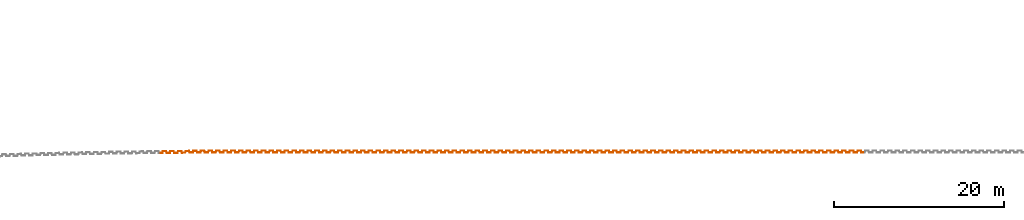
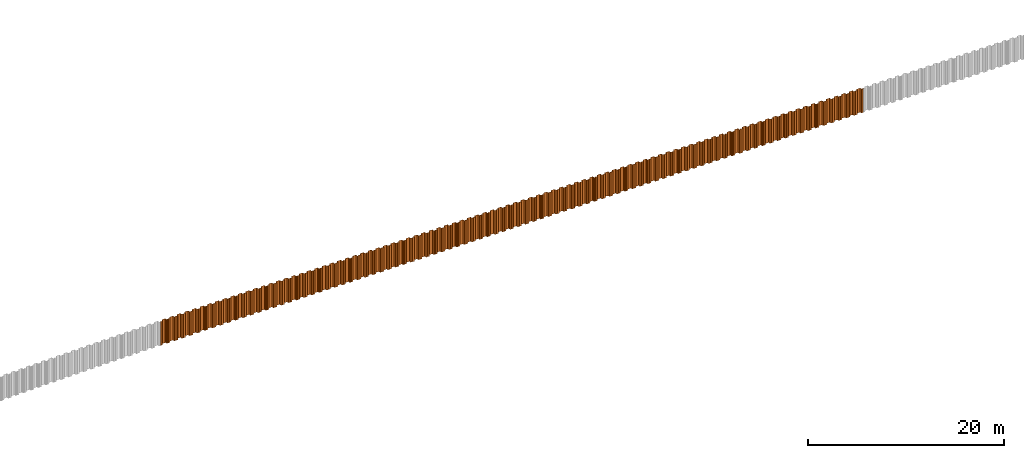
# One storey, part 7 of 12: 92 proxies.
"""IFC2X3 building model written with IfcOpenShell, lengths in millimetres."""

from ifc_helpers import new_model, entity, si_unit, converted_unit, derived_unit, direction, frame, frame_2d, origin, place, context, subcontext, project, spatial, polyline, circle_curve, parameter, trimmed, segment, composite_curve, outline, extrude, source, transform, mapped, material, type_object, type_shapes, element, save


model = new_model("IFC2X3")

# Units and contexts
model_context = context("Model", 3, precision=0.01, world=origin(), true_north=direction((6.12303176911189e-17, 1.0)))
body_context = subcontext(model_context, "Body", "Model", "MODEL_VIEW")
ifc_project = project(units=[si_unit("LENGTHUNIT", "METRE", prefix="MILLI"), si_unit("AREAUNIT", "SQUARE_METRE"), si_unit("VOLUMEUNIT", "CUBIC_METRE"), converted_unit("PLANEANGLEUNIT", "DEGREE", entity("IfcRatioMeasure", 0.0174532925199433), si_unit("PLANEANGLEUNIT", "RADIAN"), dimensions=[0, 0, 0, 0, 0, 0, 0]), si_unit("MASSUNIT", "GRAM", prefix="KILO"), derived_unit("MASSDENSITYUNIT", [(si_unit("MASSUNIT", "GRAM", prefix="KILO"), 1), (si_unit("LENGTHUNIT", "METRE"), -3)]), derived_unit("MOMENTOFINERTIAUNIT", [(si_unit("LENGTHUNIT", "METRE"), 4)]), si_unit("TIMEUNIT", "SECOND"), si_unit("FREQUENCYUNIT", "HERTZ"), si_unit("THERMODYNAMICTEMPERATUREUNIT", "DEGREE_CELSIUS"), derived_unit("THERMALTRANSMITTANCEUNIT", [(si_unit("MASSUNIT", "GRAM", prefix="KILO"), 1), (si_unit("THERMODYNAMICTEMPERATUREUNIT", "KELVIN"), -1), (si_unit("TIMEUNIT", "SECOND"), -3)]), derived_unit("VOLUMETRICFLOWRATEUNIT", [(si_unit("LENGTHUNIT", "METRE"), 3), (si_unit("TIMEUNIT", "SECOND"), -1)]), si_unit("ELECTRICCURRENTUNIT", "AMPERE"), si_unit("ELECTRICVOLTAGEUNIT", "VOLT"), si_unit("POWERUNIT", "WATT"), si_unit("FORCEUNIT", "NEWTON", prefix="KILO"), si_unit("ILLUMINANCEUNIT", "LUX"), si_unit("LUMINOUSFLUXUNIT", "LUMEN"), si_unit("LUMINOUSINTENSITYUNIT", "CANDELA"), derived_unit("USERDEFINED", [(si_unit("MASSUNIT", "GRAM", prefix="KILO"), -1), (si_unit("LENGTHUNIT", "METRE"), -2), (si_unit("TIMEUNIT", "SECOND"), 3), (si_unit("LUMINOUSFLUXUNIT", "LUMEN"), 1)]), derived_unit("LINEARVELOCITYUNIT", [(si_unit("LENGTHUNIT", "METRE"), 1), (si_unit("TIMEUNIT", "SECOND"), -1)]), si_unit("PRESSUREUNIT", "PASCAL"), derived_unit("USERDEFINED", [(si_unit("LENGTHUNIT", "METRE"), -2), (si_unit("MASSUNIT", "GRAM", prefix="KILO"), 1), (si_unit("TIMEUNIT", "SECOND"), -2)]), derived_unit("LINEARFORCEUNIT", [(si_unit("MASSUNIT", "GRAM", prefix="KILO"), 1), (si_unit("LENGTHUNIT", "METRE"), 1), (si_unit("TIMEUNIT", "SECOND"), -2), (si_unit("LENGTHUNIT", "METRE"), -1)]), derived_unit("PLANARFORCEUNIT", [(si_unit("MASSUNIT", "GRAM", prefix="KILO"), 1), (si_unit("LENGTHUNIT", "METRE"), 1), (si_unit("TIMEUNIT", "SECOND"), -2), (si_unit("LENGTHUNIT", "METRE"), -2)])], contexts=[model_context])

# Site, building, storey
site_placement = place(None, origin())
site = spatial("IfcSite", under=ifc_project, at=site_placement, Name="Default", CompositionType="ELEMENT")
building_placement = place(site_placement, origin())
building = spatial("IfcBuilding", under=site, at=building_placement, CompositionType="ELEMENT")
storey_placement = place(building_placement, frame((0.0, 0.0, 10600.0)))
storey = spatial("IfcBuildingStorey", under=building, at=storey_placement, Name="AP+10.600", CompositionType="ELEMENT", Elevation=10600.0)

# Proxies
ifc_material = material(Name="<Unnamed>")
building_element_proxy_type = type_object("IfcBuildingElementProxyType", Name="鋼矢板10H型:鋼矢板10H型", PredefinedType="NOTDEFINED", material=ifc_material)
shared_shape = source(origin(), body_context, "Body", "SweptSolid", [
    extrude(outline(composite_curve([segment(trimmed(circle_curve(frame_2d((85.3662976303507, 306.644432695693), x_axis=(0.422618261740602, 0.906307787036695)), 13.885714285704), [parameter(24.9999999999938)], [parameter(90.0000000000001)], True, "PARAMETER"), True, "CONTINUOUS"), segment(polyline([(72.7815666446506, 312.512789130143), (9.8129512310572, 177.476157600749)]), True, "CONTINUOUS"), segment(trimmed(circle_curve(frame_2d((29.3891994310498, 168.347603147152), x_axis=(0.422618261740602, 0.906307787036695)), 21.6), [parameter(90.0000000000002)], [parameter(168.69006752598)], True, "PARAMETER"), True, "CONTINUOUS"), segment(polyline([(16.598697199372, 150.941769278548), (175.329723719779, 34.2998683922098)]), True, "CONTINUOUS"), segment(trimmed(circle_curve(frame_2d((168.93447260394, 25.596951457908), x_axis=(0.422618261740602, 0.906307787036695)), 10.7999999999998), [parameter(270.0)], [parameter(348.690067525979)], True, "PARAMETER"), False, "CONTINUOUS"), segment(polyline([(178.722596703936, 21.0326742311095), (18.2974003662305, -323.000269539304)]), True, "CONTINUOUS"), segment(trimmed(circle_curve(frame_2d((8.50927626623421, -318.435992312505), x_axis=(0.422618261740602, 0.906307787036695)), 10.8), [parameter(191.30993247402)], [parameter(269.999999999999)], True, "PARAMETER"), False, "CONTINUOUS"), segment(polyline([(5.95324328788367, -328.929166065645), (-185.429973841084, -282.310113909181)]), True, "CONTINUOUS"), segment(trimmed(circle_curve(frame_2d((-190.542039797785, -303.296461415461), x_axis=(0.422618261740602, 0.906307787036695)), 21.6000000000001), [parameter(11.3099324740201)], [parameter(90.0000000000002)], True, "PARAMETER"), True, "CONTINUOUS"), segment(polyline([(-210.118287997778, -294.167906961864), (-290.330886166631, -466.184378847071)]), True, "CONTINUOUS"), segment(trimmed(circle_curve(frame_2d((-270.754637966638, -475.312933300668), x_axis=(0.422618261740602, 0.906307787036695)), 21.6), [parameter(90.0000000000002)], [parameter(269.999999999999)], True, "PARAMETER"), True, "CONTINUOUS"), segment(polyline([(-251.178389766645, -484.441487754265), (-249.065298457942, -479.909948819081)]), True, "CONTINUOUS"), segment(polyline([(-249.065298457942, -479.909948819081), (-258.853422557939, -475.345671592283)]), True, "CONTINUOUS"), segment(polyline([(-258.853422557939, -475.345671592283), (-260.966513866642, -479.877210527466)]), True, "CONTINUOUS"), segment(trimmed(circle_curve(frame_2d((-270.754637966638, -475.312933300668), x_axis=(0.422618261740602, 0.906307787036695)), 10.8), [parameter(90.0000000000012)], [parameter(270.0)], True, "PARAMETER"), False, "CONTINUOUS"), segment(polyline([(-280.542762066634, -470.748656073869), (-200.330163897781, -298.732184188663)]), True, "CONTINUOUS"), segment(trimmed(circle_curve(frame_2d((-190.542039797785, -303.296461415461), x_axis=(0.422618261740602, 0.906307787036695)), 10.8), [parameter(11.3099324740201)], [parameter(89.9999999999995)], True, "PARAMETER"), False, "CONTINUOUS"), segment(polyline([(-187.986006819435, -292.803287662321), (3.39721030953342, -339.422339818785)]), True, "CONTINUOUS"), segment(trimmed(circle_curve(frame_2d((8.50927626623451, -318.435992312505), x_axis=(0.422618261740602, 0.906307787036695)), 21.6), [parameter(191.30993247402)], [parameter(270.0)], True, "PARAMETER"), True, "CONTINUOUS"), segment(polyline([(28.0855244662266, -327.564546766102), (188.510720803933, 16.4683970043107)]), True, "CONTINUOUS"), segment(trimmed(circle_curve(frame_2d((168.93447260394, 25.5969514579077), x_axis=(0.422618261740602, 0.906307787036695)), 21.6), [parameter(270.0)], [parameter(348.69006752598)], True, "PARAMETER"), True, "CONTINUOUS"), segment(polyline([(181.724974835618, 43.0027853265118), (22.9939483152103, 159.644686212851)]), True, "CONTINUOUS"), segment(trimmed(circle_curve(frame_2d((29.3891994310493, 168.347603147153), x_axis=(0.422618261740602, 0.906307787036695)), 10.7999999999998), [parameter(89.9999999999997)], [parameter(168.690067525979)], True, "PARAMETER"), False, "CONTINUOUS"), segment(polyline([(19.6010753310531, 172.911880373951), (82.5696907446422, 307.948511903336)]), True, "CONTINUOUS"), segment(trimmed(circle_curve(frame_2d((85.3662976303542, 306.64443269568), x_axis=(0.422618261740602, 0.906307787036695)), 3.08571428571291), [parameter(25.0000000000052)], [parameter(90.0000000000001)], True, "PARAMETER"), False, "CONTINUOUS"), segment(polyline([(85.3662976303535, 309.730146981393), (122.220231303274, 309.730146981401)]), True, "CONTINUOUS"), segment(trimmed(circle_curve(frame_2d((122.220231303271, 323.615861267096), x_axis=(0.422618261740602, 0.906307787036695)), 13.8857142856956), [parameter(205.000000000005)], [parameter(270.0)], True, "PARAMETER"), True, "CONTINUOUS"), segment(polyline([(134.804962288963, 317.747504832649), (141.079261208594, 331.202782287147)]), True, "CONTINUOUS"), segment(trimmed(circle_curve(frame_2d((121.503013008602, 340.331336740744), x_axis=(0.422618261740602, 0.906307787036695)), 21.6), [parameter(270.0)], [parameter(90.0000000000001)], True, "PARAMETER"), True, "CONTINUOUS"), segment(polyline([(101.926764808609, 349.459891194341), (99.8136734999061, 344.928352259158)]), True, "CONTINUOUS"), segment(polyline([(99.8136734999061, 344.928352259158), (109.601797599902, 340.364075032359)]), True, "CONTINUOUS"), segment(polyline([(109.601797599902, 340.364075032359), (111.714888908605, 344.895613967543)]), True, "CONTINUOUS"), segment(trimmed(circle_curve(frame_2d((121.503013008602, 340.331336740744), x_axis=(0.422618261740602, 0.906307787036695)), 10.8), [parameter(270.0)], [parameter(89.9999999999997)], True, "PARAMETER"), False, "CONTINUOUS"), segment(polyline([(131.291137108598, 335.767059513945), (125.01683818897, 322.311782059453)]), True, "CONTINUOUS"), segment(trimmed(circle_curve(frame_2d((122.220231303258, 323.615861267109), x_axis=(0.422618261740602, 0.906307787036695)), 3.08571428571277), [parameter(204.999999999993)], [parameter(270.0)], True, "PARAMETER"), False, "CONTINUOUS"), segment(polyline([(122.220231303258, 320.530146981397), (85.3662976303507, 320.530146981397)]), True, "CONTINUOUS")], self_intersect=False)), frame((95.205667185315, -48.8888888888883, -3000.0), z_axis=(0.0, 0.0, -1.0), x_axis=(0.4226182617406, 0.906307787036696, 0.0)), (0.0, 0.0, -1.0), 3000.0),
])
type_shapes(building_element_proxy_type, [shared_shape])
for number, where in (
    (1, (55932.0, -15450.0, -650.0)),
    (2, (55032.0, -15450.0, -650.0)),
    (3, (54132.0, -15450.0, -650.0)),
    (4, (53232.0, -15450.0, -650.0)),
    (5, (52332.0, -15450.0, -650.0)),
    (6, (51432.0, -15450.0, -650.0)),
    (7, (50532.0, -15450.0, -650.0)),
    (8, (49632.0, -15450.0, -650.0)),
    (9, (48732.0, -15450.0, -650.0)),
    (10, (47832.0, -15450.0, -650.0)),
    (11, (46932.0, -15450.0, -650.0)),
    (12, (46032.0, -15450.0, -650.0)),
    (13, (45132.0, -15450.0, -650.0)),
    (14, (44232.0, -15450.0, -650.0)),
    (15, (43332.0, -15450.0, -650.0)),
    (16, (42432.0, -15450.0, -650.0)),
    (17, (41532.0, -15450.0, -650.0)),
    (18, (40632.0, -15450.0, -650.0)),
    (19, (39732.0, -15450.0, -650.0)),
    (20, (38832.0, -15450.0, -650.0)),
    (21, (37932.0, -15450.0, -650.0)),
    (22, (37032.0, -15450.0, -650.0)),
    (23, (36132.0, -15450.0, -650.0)),
    (24, (35232.0, -15450.0, -650.0)),
    (25, (34332.0, -15450.0, -650.0)),
    (26, (33432.0, -15450.0, -650.0)),
    (27, (32532.0, -15450.0, -650.0)),
    (28, (31632.0, -15450.0, -650.0)),
    (29, (30732.0, -15450.0, -650.0)),
    (30, (29832.0, -15450.0, -650.0)),
    (31, (28932.0, -15450.0, -650.0)),
    (32, (28032.0, -15450.0, -650.0)),
    (33, (27132.0, -15450.0, -650.0)),
    (34, (26232.0, -15450.0, -650.0)),
    (35, (25332.0, -15450.0, -650.0)),
    (36, (24432.0, -15450.0, -650.0)),
    (37, (23532.0, -15450.0, -650.0)),
    (38, (22632.0, -15450.0, -650.0)),
    (39, (21732.0, -15450.0, -650.0)),
    (40, (20832.0, -15450.0, -650.0)),
    (41, (19932.0, -15450.0, -650.0)),
    (42, (19032.0, -15450.0, -650.0)),
    (43, (18132.0, -15450.0, -650.0)),
    (44, (17232.0, -15450.0, -650.0)),
    (45, (16332.0, -15450.0, -650.0)),
    (46, (15432.0, -15450.0, -650.0)),
    (47, (14532.0, -15450.0, -650.0)),
    (48, (13632.0, -15450.0, -650.0)),
    (49, (12732.0, -15450.0, -650.0)),
    (50, (11832.0, -15450.0, -650.0)),
    (51, (10932.0, -15450.0, -650.0)),
    (52, (10032.0, -15450.0, -650.0)),
    (53, (9132.0, -15450.0, -650.0)),
    (54, (8232.0, -15450.0, -650.0)),
    (55, (7332.0, -15450.0, -650.0)),
    (56, (6432.0, -15450.0, -650.0)),
    (57, (5532.0, -15450.0, -650.0)),
    (58, (4632.0, -15450.0, -650.0)),
    (59, (3732.0, -15450.0, -650.0)),
    (60, (2832.0, -15450.0, -650.0)),
    (61, (1932.0, -15450.0, -650.0)),
    (62, (1032.0, -15450.0, -650.0)),
    (63, (132.0, -15450.0, -650.0)),
    (64, (-768.0, -15450.0, -650.0)),
    (65, (-1668.0, -15450.0, -650.0)),
    (66, (-2568.0, -15450.0, -650.0)),
    (67, (-3468.0, -15450.0, -650.0)),
    (68, (-4368.0, -15450.0, -650.0)),
    (69, (-5268.0, -15450.0, -650.0)),
    (70, (-6168.0, -15450.0, -650.0)),
    (71, (-7068.0, -15450.0, -650.0)),
    (72, (-7968.0, -15450.0, -650.0)),
    (73, (-8868.0, -15450.0, -650.0)),
    (74, (-9768.0, -15450.0, -650.0)),
    (75, (-10668.0, -15450.0, -650.0)),
    (76, (-11568.0, -15450.0, -650.0)),
    (77, (-12468.0, -15450.0, -650.0)),
    (78, (-13368.0, -15450.0, -650.0)),
    (79, (-14268.0, -15450.0, -650.0)),
    (80, (-15168.0, -15450.0, -650.0)),
    (81, (-16068.0, -15450.0, -650.0)),
    (82, (-16962.9987152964, -15450.4113564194, -650.0)),
):
    element("IfcBuildingElementProxy", number, at=place(storey_placement, frame(where)), inside=storey, type_object=building_element_proxy_type, material=ifc_material, Name="鋼矢板10H型:鋼矢板10H型", ObjectType="鋼矢板10H型:鋼矢板10H型", context=body_context, shape_type="MappedRepresentation", body=[
        mapped(shared_shape, transform((0.0, 0.0, 0.0), scale=1.0)),
    ])
for number, where, z_axis, x_axis in (
    (83, (-17862.9965470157, -15452.6738089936, -650.0), (0.0, 0.0, 1.0), (0.999997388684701, 0.00228530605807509, 0.0)),
    (84, (-18762.9923512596, -15455.1419358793, -650.0), (0.0, 0.0, 1.0), (0.999994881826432, 0.00319942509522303, 0.0)),
    (85, (-19662.9856706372, -15458.4327689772, -650.0), (0.0, 0.0, 1.0), (0.999991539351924, 0.00411354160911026, 0.0)),
    (86, (-20562.9754584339, -15462.546303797, -650.0), (0.0, 0.0, 1.0), (0.999987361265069, 0.00502765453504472, 0.0)),
    (87, (-21462.9612572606, -15467.4825389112, -650.0), (0.0, 0.0, 1.0), (0.999982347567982, 0.00594176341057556, 0.0)),
    (88, (-22362.9420204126, -15473.2414679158, -650.0), (0.0, 0.0, 1.0), (0.999976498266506, 0.00685586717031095, 0.0)),
    (89, (-23262.9172905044, -15479.8230885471, -650.0), (0.0, 0.0, 1.0), (0.999969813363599, 0.00776996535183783, 0.0)),
    (90, (-24162.8860208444, -15487.2273924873, -650.0), (0.0, 0.0, 1.0), (0.999962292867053, 0.00868405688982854, 0.0)),
    (91, (-25062.8477540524, -15495.4543766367, -650.0), (0.0, 0.0, 1.0), (0.99995393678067, 0.00959814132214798, 0.0)),
    (92, (-25962.8014434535, -15504.5040307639, -650.0), (0.0, 0.0, 1.0), (0.999944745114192, 0.0105122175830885, 0.0)),
):
    element("IfcBuildingElementProxy", number, at=place(storey_placement, frame(where, z_axis=z_axis, x_axis=x_axis)), inside=storey, type_object=building_element_proxy_type, material=ifc_material, Name="鋼矢板10H型:鋼矢板10H型", ObjectType="鋼矢板10H型:鋼矢板10H型", context=body_context, shape_type="MappedRepresentation", body=[
        mapped(shared_shape, transform((0.0, 0.0, 0.0), scale=1.0)),
    ])

save(model, "model.ifc")
